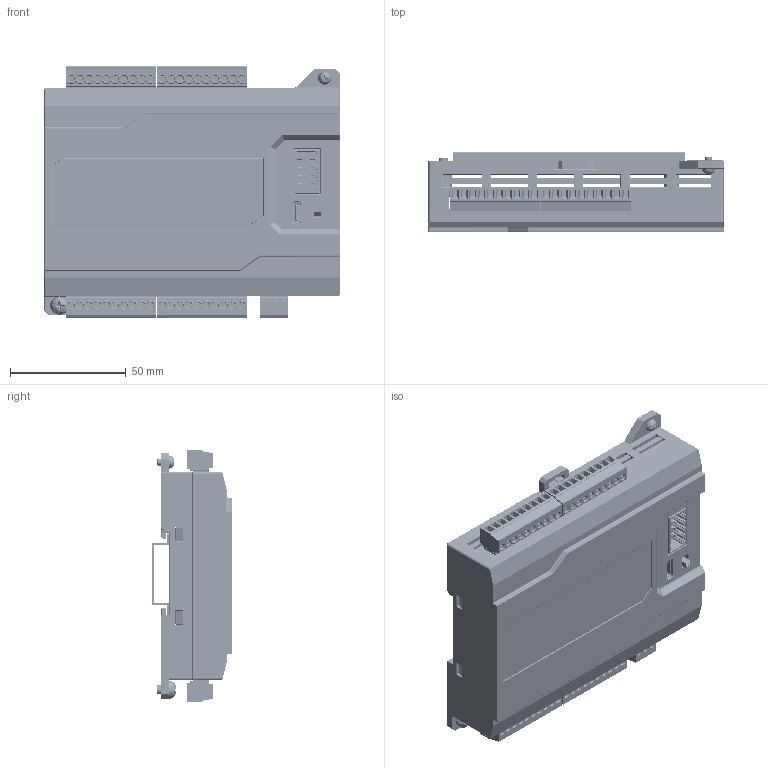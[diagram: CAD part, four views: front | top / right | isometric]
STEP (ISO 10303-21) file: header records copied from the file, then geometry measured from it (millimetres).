
FILE_DESCRIPTION((''),'2;1');
FILE_NAME('RX3U-32MT00_ASM','2024-08-07T18:06:35',('ruiwe'),(''),'CREO PARAMETRIC BY PTC INC, 2021063','CREO PARAMETRIC BY PTC INC, 2021063','');
FILE_SCHEMA(('CONFIG_CONTROL_DESIGN','SHAPE_APPEARANCE_LAYERS_GROUPS'));
Products named in the file (15): 00; 0002; PLC00; PLC000; 0003; 0004; PLC0003; PLC0004; ISO7045-M3X5-4_8; ICRPS0402; PLC0005; ICRPS0501; GSP002-3_81-08P; GSP002-3_81-03P; RX3U-32MT00_ASM
Assembly tree (25 placements, depth 2):
  RX3U-32MT00_ASM
    00
    0002
    PLC00
    PLC000
    0003
    0004
    PLC0003  x4
    PLC0004
    ISO7045-M3X5-4_8  x3
    ICRPS0402  x4
    PLC0005
    ICRPS0501
    GSP002-3_81-08P  x4
    GSP002-3_81-03P
Bounding box: 127.6 x 34.64 x 109.02 mm (x, y, z)
Volume: 151372.6 mm3; surface area: 140016.1 mm2
Topology: 33 solids, 619 shells, 7414 faces, 25452 edges, 18776 vertices
Faces by surface type: plane 3914, cylinder 2098, cone 416, torus 382, sphere 340, bspline 262, extrusion 2
Entity records: 266596 total; most frequent: CARTESIAN_POINT 73297, ORIENTED_EDGE 29256, DIRECTION 25639, EDGE_CURVE 19058, VERTEX_POINT 15014, PRESENTATION_STYLE_ASSIGNMENT 14432, STYLED_ITEM 13982, CURVE_STYLE 13637
